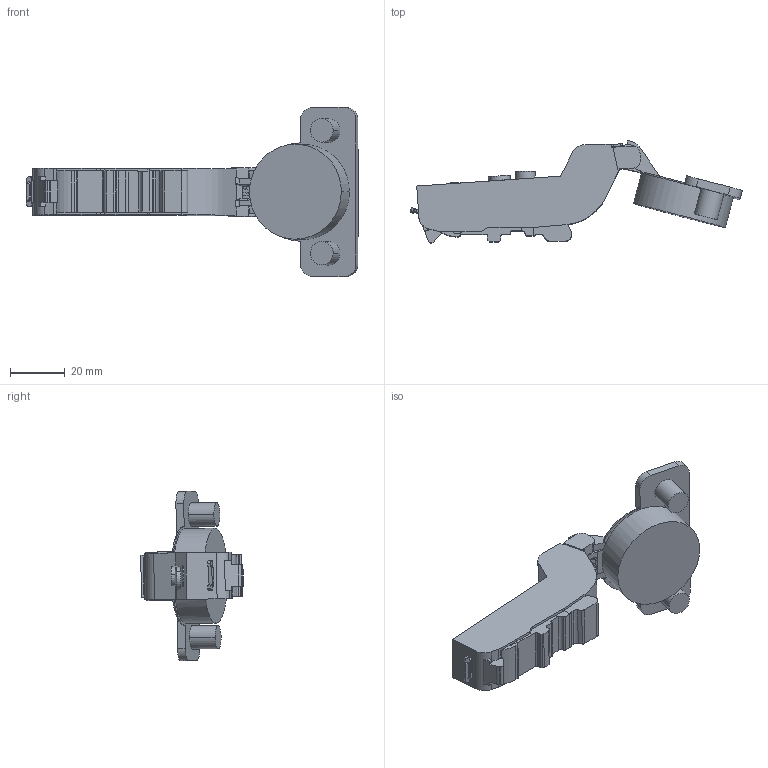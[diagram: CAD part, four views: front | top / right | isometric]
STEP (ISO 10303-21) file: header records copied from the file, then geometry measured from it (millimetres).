
FILE_DESCRIPTION (( 'STEP AP203' ), '1' );
FILE_NAME ('C81C875NFAB DTC 3D OPEN.STEP', '2024-07-24T08:06:21', ( '微软用户' ), ( '微软中国' ), 'SwSTEP 2.0', 'SolidWorks 2021', '' );
FILE_SCHEMA (( 'CONFIG_CONTROL_DESIGN' ));
Length unit declared in the file: millimetre
Products named in the file (1): C81C875NFAB DTC 3D OPEN
Bounding box: 121.69 x 37.5 x 62.05 mm (x, y, z)
Volume: 43952.9 mm3; surface area: 13284.4 mm2
Topology: 1 solids, 2 shells, 398 faces, 1147 edges, 764 vertices
Faces by surface type: plane 206, cylinder 154, torus 16, bspline 16, cone 6
Entity records: 13709 total; most frequent: CARTESIAN_POINT 3352, ORIENTED_EDGE 2294, DIRECTION 2045, EDGE_CURVE 1147, VERTEX_POINT 764, AXIS2_PLACEMENT_3D 706, LINE 633, VECTOR 633
